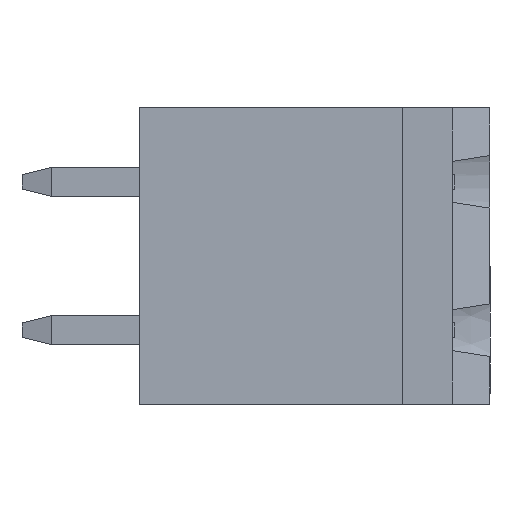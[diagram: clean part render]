
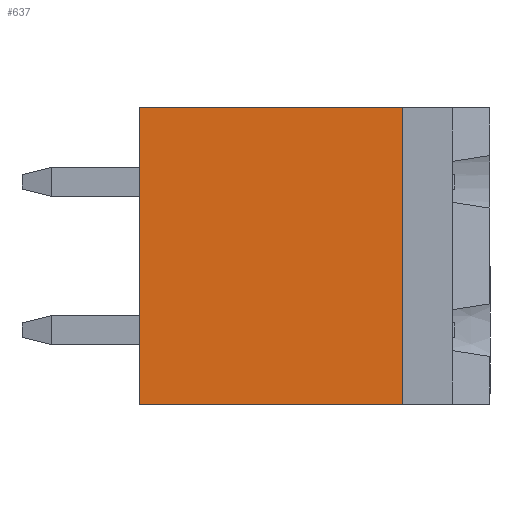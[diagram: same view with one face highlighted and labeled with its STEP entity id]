
A CAD part, left-side view. The second image highlights one B-rep face of the part: STEP entity #637.
In plain terms, the highlighted planar face has unit normal (-1, 0, 0).
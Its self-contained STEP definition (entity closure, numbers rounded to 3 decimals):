
#156 = CARTESIAN_POINT ( 'NONE',  ( -3.9, 12., 0. ) ) ;
#441 = VECTOR ( 'NONE', #3173, 1000. ) ;
#449 = LINE ( 'NONE', #4779, #1871 ) ;
#570 = VERTEX_POINT ( 'NONE', #4264 ) ;
#637 = ADVANCED_FACE ( 'NONE', ( #3417 ), #5105, .T. ) ;
#704 = CARTESIAN_POINT ( 'NONE',  ( -3.9, 3., 0. ) ) ;
#813 = DIRECTION ( 'NONE',  ( -1., 0., 0. ) ) ;
#832 = EDGE_CURVE ( 'NONE', #5267, #570, #4453, .T. ) ;
#964 = CARTESIAN_POINT ( 'NONE',  ( -3.9, 3., 10.16 ) ) ;
#1054 = DIRECTION ( 'NONE',  ( 0., -1., 0. ) ) ;
#1231 = CARTESIAN_POINT ( 'NONE',  ( -3.9, 12., 0. ) ) ;
#1363 = CARTESIAN_POINT ( 'NONE',  ( -3.9, 12., 0. ) ) ;
#1427 = EDGE_CURVE ( 'NONE', #570, #4159, #449, .T. ) ;
#1444 = ORIENTED_EDGE ( 'NONE', *, *, #3506, .F. ) ;
#1570 = DIRECTION ( 'NONE',  ( 0., 0., 1. ) ) ;
#1811 = DIRECTION ( 'NONE',  ( 0., -1., 0. ) ) ;
#1864 = CARTESIAN_POINT ( 'NONE',  ( -3.9, 3., 10.16 ) ) ;
#1871 = VECTOR ( 'NONE', #1811, 1000. ) ;
#2269 = VECTOR ( 'NONE', #4935, 1000. ) ;
#2318 = EDGE_CURVE ( 'NONE', #5267, #4613, #3526, .T. ) ;
#2536 = ORIENTED_EDGE ( 'NONE', *, *, #2318, .T. ) ;
#2752 = EDGE_LOOP ( 'NONE', ( #2536, #1444, #4829, #4556 ) ) ;
#2874 = VECTOR ( 'NONE', #1054, 1000. ) ;
#3173 = DIRECTION ( 'NONE',  ( 0., 0., -1. ) ) ;
#3417 = FACE_OUTER_BOUND ( 'NONE', #2752, .T. ) ;
#3506 = EDGE_CURVE ( 'NONE', #4159, #4613, #3780, .T. ) ;
#3526 = LINE ( 'NONE', #3631, #2874 ) ;
#3631 = CARTESIAN_POINT ( 'NONE',  ( -3.9, 12., 0. ) ) ;
#3780 = LINE ( 'NONE', #1864, #441 ) ;
#4159 = VERTEX_POINT ( 'NONE', #964 ) ;
#4264 = CARTESIAN_POINT ( 'NONE',  ( -3.9, 12., 10.16 ) ) ;
#4453 = LINE ( 'NONE', #156, #2269 ) ;
#4556 = ORIENTED_EDGE ( 'NONE', *, *, #832, .F. ) ;
#4613 = VERTEX_POINT ( 'NONE', #704 ) ;
#4779 = CARTESIAN_POINT ( 'NONE',  ( -3.9, 12., 10.16 ) ) ;
#4829 = ORIENTED_EDGE ( 'NONE', *, *, #1427, .F. ) ;
#4935 = DIRECTION ( 'NONE',  ( 0., 0., 1. ) ) ;
#4968 = AXIS2_PLACEMENT_3D ( 'NONE', #1231, #813, #1570 ) ;
#5105 = PLANE ( 'NONE',  #4968 ) ;
#5267 = VERTEX_POINT ( 'NONE', #1363 ) ;
